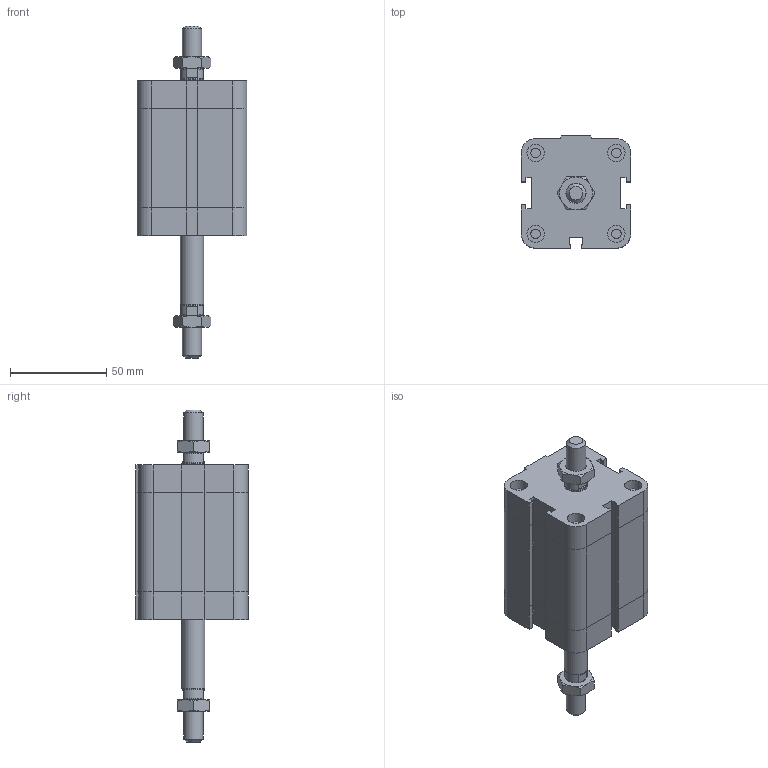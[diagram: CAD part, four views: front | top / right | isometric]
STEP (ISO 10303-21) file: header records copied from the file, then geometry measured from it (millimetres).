
FILE_DESCRIPTION((''),'2;1');
FILE_NAME('I:\Area Tecnica\Disegni\VARIE-3D\Componenti\EUROPE\15##_###_####_04_#\1581_40_0035_04_1.iam.stp','2009-04-20T14:51:35',(''),(''),'Autodesk Inventor 2009','Autodesk Inventor 2009','');
FILE_SCHEMA(('AUTOMOTIVE_DESIGN { 1 0 10303 214 1 1 1 1 }'));
Length unit declared in the file: millimetre
Products named in the file (4): 1581_40_0035_04_1; 1581_40_0035_03_1_C; 1561_40_0035_04_1_S; DBFM10
Assembly tree (4 placements, depth 2):
  1581_40_0035_04_1
    1581_40_0035_03_1_C
    1561_40_0035_04_1_S
    DBFM10  x2
Bounding box: 57 x 58.5 x 172.5 mm (x, y, z)
Volume: 249451 mm3; surface area: 41884.7 mm2
Topology: 4 solids, 4 shells, 222 faces, 483 edges, 289 vertices
Faces by surface type: plane 129, cone 35, bspline 33, cylinder 25
Full cylindrical faces by diameter (mm): 4.917 x4, 8.8 x1, 9 x4, 10 x1, 11.7 x2, 12 x1
Entity records: 5450 total; most frequent: CARTESIAN_POINT 1222, DIRECTION 802, ORIENTED_EDGE 772, EDGE_CURVE 386, AXIS2_PLACEMENT_3D 272, EDGE_LOOP 258, VECTOR 258, LINE 258
